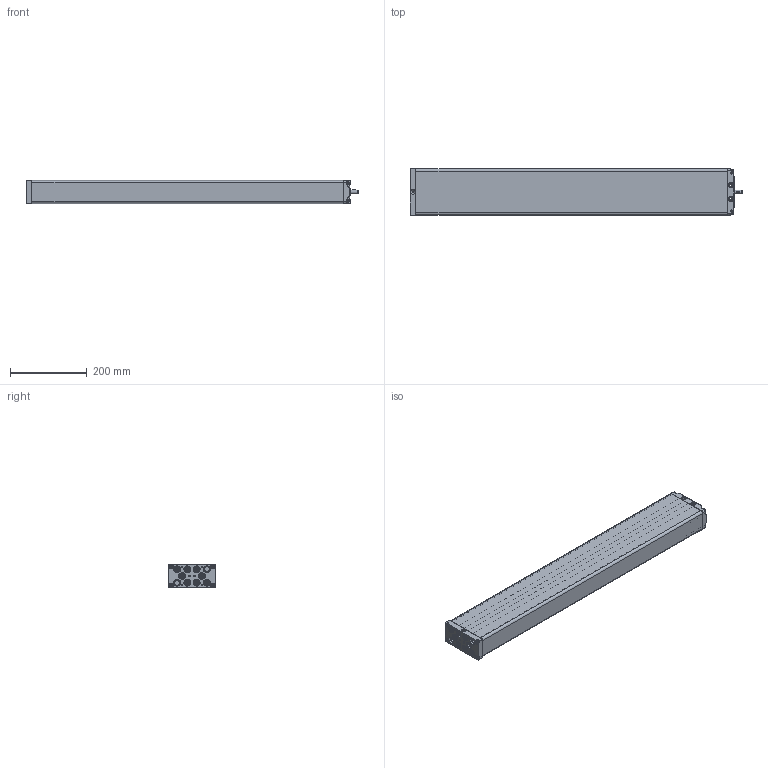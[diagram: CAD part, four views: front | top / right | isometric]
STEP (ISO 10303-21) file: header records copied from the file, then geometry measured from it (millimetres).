
FILE_DESCRIPTION(/* description */ ('Unknown'),/* implementation_level */ '2;1');
FILE_NAME(/* name */ '102.00209 Pumpe PB 8860 W',/* time_stamp */ '2016-11-24T16:05:00+01:00',/* author */ ('Unknown'),/* organization */ ('Unknown'),/* preprocessor_version */ 'ST-DEVELOPER v16.7',/* originating_system */ 'DEX',/* authorisation */ $);
FILE_SCHEMA (('AUTOMOTIVE_DESIGN {1 0 10303 214 3 1 1}'));
Products named in the file (16): 102.00209; 115.10036; 125.00061; 115.00008; 142.00021; 125.00021; 142.00013; 125.00146; 115.00140; 126.00006; 122.00040; 119.00046; 126.00036; 142.00057; 142.00083; 142.00017
Assembly tree (33 placements, depth 3):
  102.00209
    115.10036  x8
      125.00061
      115.00008
      142.00021
      125.00021
    142.00013  x8
    125.00146
    115.00140
      126.00006
      122.00040
    119.00046
    126.00036
    142.00057
    142.00083  x4
    142.00017  x2
Bounding box: 864.5 x 120 x 60.3 mm (x, y, z)
Volume: 1034769.9 mm3; surface area: 716888.2 mm2
Topology: 44 solids, 44 shells, 2152 faces, 4894 edges, 2861 vertices
Faces by surface type: plane 763, cylinder 489, bspline 377, cone 355, torus 110, sphere 58
Full cylindrical faces by diameter (mm): 3.5 x8, 4.1 x8, 4.134 x4, 4.2 x8, 4.917 x2, 5 x12, 5.8 x4, 6 x2, 6.8 x1, 6.917 x16, 8 x17, 8.5 x4, 9.8 x8, 10 x5, 10.4 x1, 10.5 x4, 12.5 x8, 13 x26, 14 x1, 14.4 x8, 17.9 x16, 18 x11, 19 x1
Entity records: 60399 total; most frequent: CARTESIAN_POINT 28877, ORIENTED_EDGE 5076, DIRECTION 4435, EDGE_CURVE 2538, AXIS2_PLACEMENT_3D 1721, VERTEX_POINT 1603, FACE_BOUND 1413, EDGE_LOOP 1412
